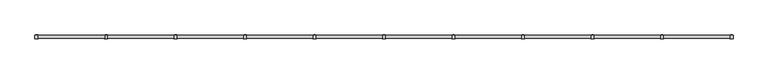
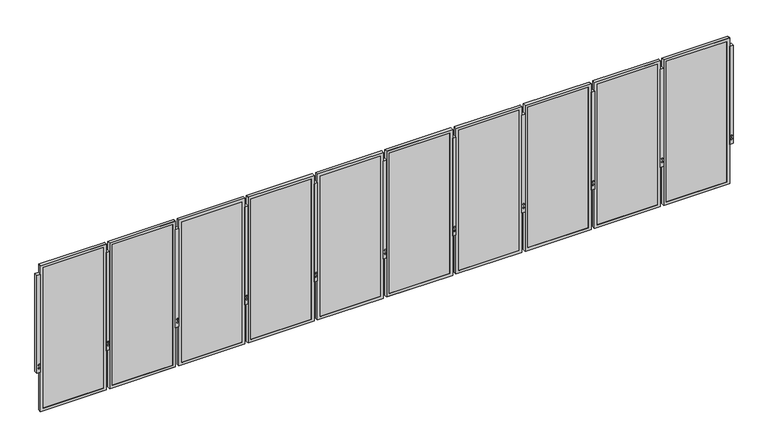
"""IFC4 building model written with IfcOpenShell, lengths in millimetres: railing geometry."""

from ifc_helpers import new_model, si_unit, frame, origin, place, context, project, spatial, polyline, outline, extrude, faceted_brep, source, transform, mapped, element, save


def railing_5ba829ca(model_context):
    return source(origin(), model_context, "Body", "SolidModel", [
        extrude(outline(polyline([(-18888.3135122, -37282.3807329), (-18837.5135122, -37282.3807329), (-18837.5135122, -37333.1807329), (-18888.3135122, -37333.1807329), (-18888.3135122, -37282.3807329)])), frame((0.0, 0.0, -609.6), z_axis=(0.0, 0.0, 1.0), x_axis=(1.0, 0.0, 0.0)), (0.0, 0.0, 1.0), 1524.0),
        extrude(outline(polyline([(-530.1129981, -18873.3340824), (-542.3802561, -18870.0470805), (-545.667258, -18857.7798225), (-536.6870019, -18848.7995664), (-524.4197439, -18852.0865683), (-521.132742, -18864.3538263), (-530.1129981, -18873.3340824)])), frame((0.0, -37335.0274207, 0.0), z_axis=(0.0, 1.0, 0.0), x_axis=(0.0, 0.0, 1.0)), (0.0, 0.0, 1.0), 54.4933756),
        extrude(outline(polyline([(-479.3129981, -18873.3340824), (-491.5802561, -18870.0470805), (-494.867258, -18857.7798225), (-485.8870019, -18848.7995664), (-473.6197439, -18852.0865683), (-470.332742, -18864.3538263), (-479.3129981, -18873.3340824)])), frame((0.0, -37335.0274207, 0.0), z_axis=(0.0, 1.0, 0.0), x_axis=(0.0, 0.0, 1.0)), (0.0, 0.0, 1.0), 54.4933756),
        faceted_brep([(-19854.7179656, -37329.5739329, -1222.375), (-18886.3429656, -37329.5739329, -1222.375), (-18886.3429656, -37329.5739329, 1044.575), (-19854.7179656, -37329.5739329, 1044.575), (-19813.4429656, -37329.5739329, 1003.3), (-18927.6179656, -37329.5739329, 1003.3), (-18927.6179656, -37329.5739329, -1181.1), (-19813.4429656, -37329.5739329, -1181.1), (-19813.4429656, -37326.8307329, 1003.3), (-19813.4429656, -37326.8307329, -1181.1), (-19854.7179656, -37285.7006364, 1044.575), (-19854.7179656, -37285.7006364, -1222.375), (-19851.5429656, -37285.7006364, 1041.4), (-19851.5429656, -37326.8307329, 1041.4), (-19851.5429656, -37326.8307329, -1219.2), (-19851.5429656, -37285.7006364, -1219.2), (-18927.6179656, -37326.8307329, -1181.1), (-18886.3429656, -37285.7006364, -1222.375), (-18889.5179656, -37326.8307329, -1219.2), (-18889.5179656, -37285.7006364, -1219.2), (-18927.6179656, -37326.8307329, 1003.3), (-18886.3429656, -37285.7006364, 1044.575), (-18889.5179656, -37326.8307329, 1041.4), (-18889.5179656, -37285.7006364, 1041.4)], [[[0, 1, 2, 3], [4, 5, 6, 7]], [[8, 4, 7, 9]], [[3, 10, 11, 0]], [[12, 13, 14, 15]], [[9, 7, 6, 16]], [[0, 11, 17, 1]], [[15, 14, 18, 19]], [[16, 6, 5, 20]], [[1, 17, 21, 2]], [[19, 18, 22, 23]], [[20, 5, 4, 8]], [[10, 21, 17, 11], [15, 19, 23, 12]], [[2, 21, 10, 3]], [[13, 22, 18, 14], [9, 16, 20, 8]], [[23, 22, 13, 12]]]),
        extrude(outline(polyline([(-19851.5429656, -37317.3057329), (-18889.5179656, -37317.3057329), (-18889.5179656, -37326.8307329), (-19851.5429656, -37326.8307329), (-19851.5429656, -37317.3057329)])), frame((0.0, 0.0, -1219.2), z_axis=(0.0, 0.0, 1.0), x_axis=(1.0, 0.0, 0.0)), (0.0, 0.0, 1.0), 2260.6),
        extrude(outline(polyline([(-19905.9010122, -37282.3807329), (-19855.1010122, -37282.3807329), (-19855.1010122, -37333.1807329), (-19905.9010122, -37333.1807329), (-19905.9010122, -37282.3807329)])), frame((0.0, 0.0, -609.6), z_axis=(0.0, 0.0, 1.0), x_axis=(1.0, 0.0, 0.0)), (0.0, 0.0, 1.0), 1524.0),
        extrude(outline(polyline([(-530.1129981, -19890.9215824), (-542.3802561, -19887.6345805), (-545.667258, -19875.3673225), (-536.6870019, -19866.3870664), (-524.4197439, -19869.6740683), (-521.132742, -19881.9413263), (-530.1129981, -19890.9215824)])), frame((0.0, -37335.0274207, 0.0), z_axis=(0.0, 1.0, 0.0), x_axis=(0.0, 0.0, 1.0)), (0.0, 0.0, 1.0), 54.4933756),
        extrude(outline(polyline([(-479.3129981, -19890.9215824), (-491.5802561, -19887.6345805), (-494.867258, -19875.3673225), (-485.8870019, -19866.3870664), (-473.6197439, -19869.6740683), (-470.332742, -19881.9413263), (-479.3129981, -19890.9215824)])), frame((0.0, -37335.0274207, 0.0), z_axis=(0.0, 1.0, 0.0), x_axis=(0.0, 0.0, 1.0)), (0.0, 0.0, 1.0), 54.4933756),
        faceted_brep([(-20872.3054656, -37329.5739329, -1222.375), (-19903.9304656, -37329.5739329, -1222.375), (-19903.9304656, -37329.5739329, 1044.575), (-20872.3054656, -37329.5739329, 1044.575), (-20831.0304656, -37329.5739329, 1003.3), (-19945.2054656, -37329.5739329, 1003.3), (-19945.2054656, -37329.5739329, -1181.1), (-20831.0304656, -37329.5739329, -1181.1), (-20831.0304656, -37326.8307329, 1003.3), (-20831.0304656, -37326.8307329, -1181.1), (-20872.3054656, -37285.7006364, 1044.575), (-20872.3054656, -37285.7006364, -1222.375), (-20869.1304656, -37285.7006364, 1041.4), (-20869.1304656, -37326.8307329, 1041.4), (-20869.1304656, -37326.8307329, -1219.2), (-20869.1304656, -37285.7006364, -1219.2), (-19945.2054656, -37326.8307329, -1181.1), (-19903.9304656, -37285.7006364, -1222.375), (-19907.1054656, -37326.8307329, -1219.2), (-19907.1054656, -37285.7006364, -1219.2), (-19945.2054656, -37326.8307329, 1003.3), (-19903.9304656, -37285.7006364, 1044.575), (-19907.1054656, -37326.8307329, 1041.4), (-19907.1054656, -37285.7006364, 1041.4)], [[[0, 1, 2, 3], [4, 5, 6, 7]], [[8, 4, 7, 9]], [[3, 10, 11, 0]], [[12, 13, 14, 15]], [[9, 7, 6, 16]], [[0, 11, 17, 1]], [[15, 14, 18, 19]], [[16, 6, 5, 20]], [[1, 17, 21, 2]], [[19, 18, 22, 23]], [[20, 5, 4, 8]], [[10, 21, 17, 11], [15, 19, 23, 12]], [[2, 21, 10, 3]], [[13, 22, 18, 14], [9, 16, 20, 8]], [[23, 22, 13, 12]]]),
        extrude(outline(polyline([(-20869.1304656, -37317.3057329), (-19907.1054656, -37317.3057329), (-19907.1054656, -37326.8307329), (-20869.1304656, -37326.8307329), (-20869.1304656, -37317.3057329)])), frame((0.0, 0.0, -1219.2), z_axis=(0.0, 0.0, 1.0), x_axis=(1.0, 0.0, 0.0)), (0.0, 0.0, 1.0), 2260.6),
        extrude(outline(polyline([(-20923.4885122, -37282.3807329), (-20872.6885122, -37282.3807329), (-20872.6885122, -37333.1807329), (-20923.4885122, -37333.1807329), (-20923.4885122, -37282.3807329)])), frame((0.0, 0.0, -609.6), z_axis=(0.0, 0.0, 1.0), x_axis=(1.0, 0.0, 0.0)), (0.0, 0.0, 1.0), 1524.0),
        extrude(outline(polyline([(-530.1129981, -20908.5090824), (-542.3802561, -20905.2220805), (-545.667258, -20892.9548225), (-536.6870019, -20883.9745664), (-524.4197439, -20887.2615683), (-521.132742, -20899.5288263), (-530.1129981, -20908.5090824)])), frame((0.0, -37335.0274207, 0.0), z_axis=(0.0, 1.0, 0.0), x_axis=(0.0, 0.0, 1.0)), (0.0, 0.0, 1.0), 54.4933756),
        extrude(outline(polyline([(-479.3129981, -20908.5090824), (-491.5802561, -20905.2220805), (-494.867258, -20892.9548225), (-485.8870019, -20883.9745664), (-473.6197439, -20887.2615683), (-470.332742, -20899.5288263), (-479.3129981, -20908.5090824)])), frame((0.0, -37335.0274207, 0.0), z_axis=(0.0, 1.0, 0.0), x_axis=(0.0, 0.0, 1.0)), (0.0, 0.0, 1.0), 54.4933756),
        faceted_brep([(-21889.8929656, -37329.5739329, -1222.375), (-20921.5179656, -37329.5739329, -1222.375), (-20921.5179656, -37329.5739329, 1044.575), (-21889.8929656, -37329.5739329, 1044.575), (-21848.6179656, -37329.5739329, 1003.3), (-20962.7929656, -37329.5739329, 1003.3), (-20962.7929656, -37329.5739329, -1181.1), (-21848.6179656, -37329.5739329, -1181.1), (-21848.6179656, -37326.8307329, 1003.3), (-21848.6179656, -37326.8307329, -1181.1), (-21889.8929656, -37285.7006364, 1044.575), (-21889.8929656, -37285.7006364, -1222.375), (-21886.7179656, -37285.7006364, 1041.4), (-21886.7179656, -37326.8307329, 1041.4), (-21886.7179656, -37326.8307329, -1219.2), (-21886.7179656, -37285.7006364, -1219.2), (-20962.7929656, -37326.8307329, -1181.1), (-20921.5179656, -37285.7006364, -1222.375), (-20924.6929656, -37326.8307329, -1219.2), (-20924.6929656, -37285.7006364, -1219.2), (-20962.7929656, -37326.8307329, 1003.3), (-20921.5179656, -37285.7006364, 1044.575), (-20924.6929656, -37326.8307329, 1041.4), (-20924.6929656, -37285.7006364, 1041.4)], [[[0, 1, 2, 3], [4, 5, 6, 7]], [[8, 4, 7, 9]], [[3, 10, 11, 0]], [[12, 13, 14, 15]], [[9, 7, 6, 16]], [[0, 11, 17, 1]], [[15, 14, 18, 19]], [[16, 6, 5, 20]], [[1, 17, 21, 2]], [[19, 18, 22, 23]], [[20, 5, 4, 8]], [[10, 21, 17, 11], [15, 19, 23, 12]], [[2, 21, 10, 3]], [[13, 22, 18, 14], [9, 16, 20, 8]], [[23, 22, 13, 12]]]),
        extrude(outline(polyline([(-21886.7179656, -37317.3057329), (-20924.6929656, -37317.3057329), (-20924.6929656, -37326.8307329), (-21886.7179656, -37326.8307329), (-21886.7179656, -37317.3057329)])), frame((0.0, 0.0, -1219.2), z_axis=(0.0, 0.0, 1.0), x_axis=(1.0, 0.0, 0.0)), (0.0, 0.0, 1.0), 2260.6),
        extrude(outline(polyline([(-21941.0760122, -37282.3807329), (-21890.2760122, -37282.3807329), (-21890.2760122, -37333.1807329), (-21941.0760122, -37333.1807329), (-21941.0760122, -37282.3807329)])), frame((0.0, 0.0, -609.6), z_axis=(0.0, 0.0, 1.0), x_axis=(1.0, 0.0, 0.0)), (0.0, 0.0, 1.0), 1524.0),
        extrude(outline(polyline([(-530.1129981, -21926.0965824), (-542.3802561, -21922.8095805), (-545.667258, -21910.5423225), (-536.6870019, -21901.5620664), (-524.4197439, -21904.8490683), (-521.132742, -21917.1163263), (-530.1129981, -21926.0965824)])), frame((0.0, -37335.0274207, 0.0), z_axis=(0.0, 1.0, 0.0), x_axis=(0.0, 0.0, 1.0)), (0.0, 0.0, 1.0), 54.4933756),
        extrude(outline(polyline([(-479.3129981, -21926.0965824), (-491.5802561, -21922.8095805), (-494.867258, -21910.5423225), (-485.8870019, -21901.5620664), (-473.6197439, -21904.8490683), (-470.332742, -21917.1163263), (-479.3129981, -21926.0965824)])), frame((0.0, -37335.0274207, 0.0), z_axis=(0.0, 1.0, 0.0), x_axis=(0.0, 0.0, 1.0)), (0.0, 0.0, 1.0), 54.4933756),
        faceted_brep([(-22907.4804656, -37329.5739329, -1222.375), (-21939.1054656, -37329.5739329, -1222.375), (-21939.1054656, -37329.5739329, 1044.575), (-22907.4804656, -37329.5739329, 1044.575), (-22866.2054656, -37329.5739329, 1003.3), (-21980.3804656, -37329.5739329, 1003.3), (-21980.3804656, -37329.5739329, -1181.1), (-22866.2054656, -37329.5739329, -1181.1), (-22866.2054656, -37326.8307329, 1003.3), (-22866.2054656, -37326.8307329, -1181.1), (-22907.4804656, -37285.7006364, 1044.575), (-22907.4804656, -37285.7006364, -1222.375), (-22904.3054656, -37285.7006364, 1041.4), (-22904.3054656, -37326.8307329, 1041.4), (-22904.3054656, -37326.8307329, -1219.2), (-22904.3054656, -37285.7006364, -1219.2), (-21980.3804656, -37326.8307329, -1181.1), (-21939.1054656, -37285.7006364, -1222.375), (-21942.2804656, -37326.8307329, -1219.2), (-21942.2804656, -37285.7006364, -1219.2), (-21980.3804656, -37326.8307329, 1003.3), (-21939.1054656, -37285.7006364, 1044.575), (-21942.2804656, -37326.8307329, 1041.4), (-21942.2804656, -37285.7006364, 1041.4)], [[[0, 1, 2, 3], [4, 5, 6, 7]], [[8, 4, 7, 9]], [[3, 10, 11, 0]], [[12, 13, 14, 15]], [[9, 7, 6, 16]], [[0, 11, 17, 1]], [[15, 14, 18, 19]], [[16, 6, 5, 20]], [[1, 17, 21, 2]], [[19, 18, 22, 23]], [[20, 5, 4, 8]], [[10, 21, 17, 11], [15, 19, 23, 12]], [[2, 21, 10, 3]], [[13, 22, 18, 14], [9, 16, 20, 8]], [[23, 22, 13, 12]]]),
        extrude(outline(polyline([(-22904.3054656, -37317.3057329), (-21942.2804656, -37317.3057329), (-21942.2804656, -37326.8307329), (-22904.3054656, -37326.8307329), (-22904.3054656, -37317.3057329)])), frame((0.0, 0.0, -1219.2), z_axis=(0.0, 0.0, 1.0), x_axis=(1.0, 0.0, 0.0)), (0.0, 0.0, 1.0), 2260.6),
        extrude(outline(polyline([(-22958.6635122, -37282.3807329), (-22907.8635122, -37282.3807329), (-22907.8635122, -37333.1807329), (-22958.6635122, -37333.1807329), (-22958.6635122, -37282.3807329)])), frame((0.0, 0.0, -609.6), z_axis=(0.0, 0.0, 1.0), x_axis=(1.0, 0.0, 0.0)), (0.0, 0.0, 1.0), 1524.0),
        extrude(outline(polyline([(-530.1129981, -22943.6840824), (-542.3802561, -22940.3970805), (-545.667258, -22928.1298225), (-536.6870019, -22919.1495664), (-524.4197439, -22922.4365683), (-521.132742, -22934.7038263), (-530.1129981, -22943.6840824)])), frame((0.0, -37335.0274207, 0.0), z_axis=(0.0, 1.0, 0.0), x_axis=(0.0, 0.0, 1.0)), (0.0, 0.0, 1.0), 54.4933756),
        extrude(outline(polyline([(-479.3129981, -22943.6840824), (-491.5802561, -22940.3970805), (-494.867258, -22928.1298225), (-485.8870019, -22919.1495664), (-473.6197439, -22922.4365683), (-470.332742, -22934.7038263), (-479.3129981, -22943.6840824)])), frame((0.0, -37335.0274207, 0.0), z_axis=(0.0, 1.0, 0.0), x_axis=(0.0, 0.0, 1.0)), (0.0, 0.0, 1.0), 54.4933756),
        faceted_brep([(-23925.0679656, -37329.5739329, -1222.375), (-22956.6929656, -37329.5739329, -1222.375), (-22956.6929656, -37329.5739329, 1044.575), (-23925.0679656, -37329.5739329, 1044.575), (-23883.7929656, -37329.5739329, 1003.3), (-22997.9679656, -37329.5739329, 1003.3), (-22997.9679656, -37329.5739329, -1181.1), (-23883.7929656, -37329.5739329, -1181.1), (-23883.7929656, -37326.8307329, 1003.3), (-23883.7929656, -37326.8307329, -1181.1), (-23925.0679656, -37285.7006364, 1044.575), (-23925.0679656, -37285.7006364, -1222.375), (-23921.8929656, -37285.7006364, 1041.4), (-23921.8929656, -37326.8307329, 1041.4), (-23921.8929656, -37326.8307329, -1219.2), (-23921.8929656, -37285.7006364, -1219.2), (-22997.9679656, -37326.8307329, -1181.1), (-22956.6929656, -37285.7006364, -1222.375), (-22959.8679656, -37326.8307329, -1219.2), (-22959.8679656, -37285.7006364, -1219.2), (-22997.9679656, -37326.8307329, 1003.3), (-22956.6929656, -37285.7006364, 1044.575), (-22959.8679656, -37326.8307329, 1041.4), (-22959.8679656, -37285.7006364, 1041.4)], [[[0, 1, 2, 3], [4, 5, 6, 7]], [[8, 4, 7, 9]], [[3, 10, 11, 0]], [[12, 13, 14, 15]], [[9, 7, 6, 16]], [[0, 11, 17, 1]], [[15, 14, 18, 19]], [[16, 6, 5, 20]], [[1, 17, 21, 2]], [[19, 18, 22, 23]], [[20, 5, 4, 8]], [[10, 21, 17, 11], [15, 19, 23, 12]], [[2, 21, 10, 3]], [[13, 22, 18, 14], [9, 16, 20, 8]], [[23, 22, 13, 12]]]),
        extrude(outline(polyline([(-23921.8929656, -37317.3057329), (-22959.8679656, -37317.3057329), (-22959.8679656, -37326.8307329), (-23921.8929656, -37326.8307329), (-23921.8929656, -37317.3057329)])), frame((0.0, 0.0, -1219.2), z_axis=(0.0, 0.0, 1.0), x_axis=(1.0, 0.0, 0.0)), (0.0, 0.0, 1.0), 2260.6),
        extrude(outline(polyline([(-23976.2510122, -37282.3807329), (-23925.4510122, -37282.3807329), (-23925.4510122, -37333.1807329), (-23976.2510122, -37333.1807329), (-23976.2510122, -37282.3807329)])), frame((0.0, 0.0, -609.6), z_axis=(0.0, 0.0, 1.0), x_axis=(1.0, 0.0, 0.0)), (0.0, 0.0, 1.0), 1524.0),
        extrude(outline(polyline([(-530.1129981, -23961.2715824), (-542.3802561, -23957.9845805), (-545.667258, -23945.7173225), (-536.6870019, -23936.7370664), (-524.4197439, -23940.0240683), (-521.132742, -23952.2913263), (-530.1129981, -23961.2715824)])), frame((0.0, -37335.0274207, 0.0), z_axis=(0.0, 1.0, 0.0), x_axis=(0.0, 0.0, 1.0)), (0.0, 0.0, 1.0), 54.4933756),
        extrude(outline(polyline([(-479.3129981, -23961.2715824), (-491.5802561, -23957.9845805), (-494.867258, -23945.7173225), (-485.8870019, -23936.7370664), (-473.6197439, -23940.0240683), (-470.332742, -23952.2913263), (-479.3129981, -23961.2715824)])), frame((0.0, -37335.0274207, 0.0), z_axis=(0.0, 1.0, 0.0), x_axis=(0.0, 0.0, 1.0)), (0.0, 0.0, 1.0), 54.4933756),
        faceted_brep([(-24942.6554656, -37329.5739329, -1222.375), (-23974.2804656, -37329.5739329, -1222.375), (-23974.2804656, -37329.5739329, 1044.575), (-24942.6554656, -37329.5739329, 1044.575), (-24901.3804656, -37329.5739329, 1003.3), (-24015.5554656, -37329.5739329, 1003.3), (-24015.5554656, -37329.5739329, -1181.1), (-24901.3804656, -37329.5739329, -1181.1), (-24901.3804656, -37326.8307329, 1003.3), (-24901.3804656, -37326.8307329, -1181.1), (-24942.6554656, -37285.7006364, 1044.575), (-24942.6554656, -37285.7006364, -1222.375), (-24939.4804656, -37285.7006364, 1041.4), (-24939.4804656, -37326.8307329, 1041.4), (-24939.4804656, -37326.8307329, -1219.2), (-24939.4804656, -37285.7006364, -1219.2), (-24015.5554656, -37326.8307329, -1181.1), (-23974.2804656, -37285.7006364, -1222.375), (-23977.4554656, -37326.8307329, -1219.2), (-23977.4554656, -37285.7006364, -1219.2), (-24015.5554656, -37326.8307329, 1003.3), (-23974.2804656, -37285.7006364, 1044.575), (-23977.4554656, -37326.8307329, 1041.4), (-23977.4554656, -37285.7006364, 1041.4)], [[[0, 1, 2, 3], [4, 5, 6, 7]], [[8, 4, 7, 9]], [[3, 10, 11, 0]], [[12, 13, 14, 15]], [[9, 7, 6, 16]], [[0, 11, 17, 1]], [[15, 14, 18, 19]], [[16, 6, 5, 20]], [[1, 17, 21, 2]], [[19, 18, 22, 23]], [[20, 5, 4, 8]], [[10, 21, 17, 11], [15, 19, 23, 12]], [[2, 21, 10, 3]], [[13, 22, 18, 14], [9, 16, 20, 8]], [[23, 22, 13, 12]]]),
        extrude(outline(polyline([(-24939.4804656, -37317.3057329), (-23977.4554656, -37317.3057329), (-23977.4554656, -37326.8307329), (-24939.4804656, -37326.8307329), (-24939.4804656, -37317.3057329)])), frame((0.0, 0.0, -1219.2), z_axis=(0.0, 0.0, 1.0), x_axis=(1.0, 0.0, 0.0)), (0.0, 0.0, 1.0), 2260.6),
        extrude(outline(polyline([(-24993.8385122, -37282.3807329), (-24943.0385122, -37282.3807329), (-24943.0385122, -37333.1807329), (-24993.8385122, -37333.1807329), (-24993.8385122, -37282.3807329)])), frame((0.0, 0.0, -609.6), z_axis=(0.0, 0.0, 1.0), x_axis=(1.0, 0.0, 0.0)), (0.0, 0.0, 1.0), 1524.0),
        extrude(outline(polyline([(-530.1129981, -24978.8590824), (-542.3802561, -24975.5720805), (-545.667258, -24963.3048225), (-536.6870019, -24954.3245664), (-524.4197439, -24957.6115683), (-521.132742, -24969.8788263), (-530.1129981, -24978.8590824)])), frame((0.0, -37335.0274207, 0.0), z_axis=(0.0, 1.0, 0.0), x_axis=(0.0, 0.0, 1.0)), (0.0, 0.0, 1.0), 54.4933756),
        extrude(outline(polyline([(-479.3129981, -24978.8590824), (-491.5802561, -24975.5720805), (-494.867258, -24963.3048225), (-485.8870019, -24954.3245664), (-473.6197439, -24957.6115683), (-470.332742, -24969.8788263), (-479.3129981, -24978.8590824)])), frame((0.0, -37335.0274207, 0.0), z_axis=(0.0, 1.0, 0.0), x_axis=(0.0, 0.0, 1.0)), (0.0, 0.0, 1.0), 54.4933756),
        faceted_brep([(-25960.2429656, -37329.5739329, -1222.375), (-24991.8679656, -37329.5739329, -1222.375), (-24991.8679656, -37329.5739329, 1044.575), (-25960.2429656, -37329.5739329, 1044.575), (-25918.9679656, -37329.5739329, 1003.3), (-25033.1429656, -37329.5739329, 1003.3), (-25033.1429656, -37329.5739329, -1181.1), (-25918.9679656, -37329.5739329, -1181.1), (-25918.9679656, -37326.8307329, 1003.3), (-25918.9679656, -37326.8307329, -1181.1), (-25960.2429656, -37285.7006364, 1044.575), (-25960.2429656, -37285.7006364, -1222.375), (-25957.0679656, -37285.7006364, 1041.4), (-25957.0679656, -37326.8307329, 1041.4), (-25957.0679656, -37326.8307329, -1219.2), (-25957.0679656, -37285.7006364, -1219.2), (-25033.1429656, -37326.8307329, -1181.1), (-24991.8679656, -37285.7006364, -1222.375), (-24995.0429656, -37326.8307329, -1219.2), (-24995.0429656, -37285.7006364, -1219.2), (-25033.1429656, -37326.8307329, 1003.3), (-24991.8679656, -37285.7006364, 1044.575), (-24995.0429656, -37326.8307329, 1041.4), (-24995.0429656, -37285.7006364, 1041.4)], [[[0, 1, 2, 3], [4, 5, 6, 7]], [[8, 4, 7, 9]], [[3, 10, 11, 0]], [[12, 13, 14, 15]], [[9, 7, 6, 16]], [[0, 11, 17, 1]], [[15, 14, 18, 19]], [[16, 6, 5, 20]], [[1, 17, 21, 2]], [[19, 18, 22, 23]], [[20, 5, 4, 8]], [[10, 21, 17, 11], [15, 19, 23, 12]], [[2, 21, 10, 3]], [[13, 22, 18, 14], [9, 16, 20, 8]], [[23, 22, 13, 12]]]),
        extrude(outline(polyline([(-25957.0679656, -37317.3057329), (-24995.0429656, -37317.3057329), (-24995.0429656, -37326.8307329), (-25957.0679656, -37326.8307329), (-25957.0679656, -37317.3057329)])), frame((0.0, 0.0, -1219.2), z_axis=(0.0, 0.0, 1.0), x_axis=(1.0, 0.0, 0.0)), (0.0, 0.0, 1.0), 2260.6),
        extrude(outline(polyline([(-26011.4260122, -37282.3807329), (-25960.6260122, -37282.3807329), (-25960.6260122, -37333.1807329), (-26011.4260122, -37333.1807329), (-26011.4260122, -37282.3807329)])), frame((0.0, 0.0, -609.6), z_axis=(0.0, 0.0, 1.0), x_axis=(1.0, 0.0, 0.0)), (0.0, 0.0, 1.0), 1524.0),
        extrude(outline(polyline([(-530.1129981, -25996.4465824), (-542.3802561, -25993.1595805), (-545.667258, -25980.8923225), (-536.6870019, -25971.9120664), (-524.4197439, -25975.1990683), (-521.132742, -25987.4663263), (-530.1129981, -25996.4465824)])), frame((0.0, -37335.0274207, 0.0), z_axis=(0.0, 1.0, 0.0), x_axis=(0.0, 0.0, 1.0)), (0.0, 0.0, 1.0), 54.4933756),
        extrude(outline(polyline([(-479.3129981, -25996.4465824), (-491.5802561, -25993.1595805), (-494.867258, -25980.8923225), (-485.8870019, -25971.9120664), (-473.6197439, -25975.1990683), (-470.332742, -25987.4663263), (-479.3129981, -25996.4465824)])), frame((0.0, -37335.0274207, 0.0), z_axis=(0.0, 1.0, 0.0), x_axis=(0.0, 0.0, 1.0)), (0.0, 0.0, 1.0), 54.4933756),
        faceted_brep([(-26977.8304656, -37329.5739329, -1222.375), (-26009.4554656, -37329.5739329, -1222.375), (-26009.4554656, -37329.5739329, 1044.575), (-26977.8304656, -37329.5739329, 1044.575), (-26936.5554656, -37329.5739329, 1003.3), (-26050.7304656, -37329.5739329, 1003.3), (-26050.7304656, -37329.5739329, -1181.1), (-26936.5554656, -37329.5739329, -1181.1), (-26936.5554656, -37326.8307329, 1003.3), (-26936.5554656, -37326.8307329, -1181.1), (-26977.8304656, -37285.7006364, 1044.575), (-26977.8304656, -37285.7006364, -1222.375), (-26974.6554656, -37285.7006364, 1041.4), (-26974.6554656, -37326.8307329, 1041.4), (-26974.6554656, -37326.8307329, -1219.2), (-26974.6554656, -37285.7006364, -1219.2), (-26050.7304656, -37326.8307329, -1181.1), (-26009.4554656, -37285.7006364, -1222.375), (-26012.6304656, -37326.8307329, -1219.2), (-26012.6304656, -37285.7006364, -1219.2), (-26050.7304656, -37326.8307329, 1003.3), (-26009.4554656, -37285.7006364, 1044.575), (-26012.6304656, -37326.8307329, 1041.4), (-26012.6304656, -37285.7006364, 1041.4)], [[[0, 1, 2, 3], [4, 5, 6, 7]], [[8, 4, 7, 9]], [[3, 10, 11, 0]], [[12, 13, 14, 15]], [[9, 7, 6, 16]], [[0, 11, 17, 1]], [[15, 14, 18, 19]], [[16, 6, 5, 20]], [[1, 17, 21, 2]], [[19, 18, 22, 23]], [[20, 5, 4, 8]], [[10, 21, 17, 11], [15, 19, 23, 12]], [[2, 21, 10, 3]], [[13, 22, 18, 14], [9, 16, 20, 8]], [[23, 22, 13, 12]]]),
        extrude(outline(polyline([(-26974.6554656, -37317.3057329), (-26012.6304656, -37317.3057329), (-26012.6304656, -37326.8307329), (-26974.6554656, -37326.8307329), (-26974.6554656, -37317.3057329)])), frame((0.0, 0.0, -1219.2), z_axis=(0.0, 0.0, 1.0), x_axis=(1.0, 0.0, 0.0)), (0.0, 0.0, 1.0), 2260.6),
        extrude(outline(polyline([(-27029.0135122, -37282.3807329), (-26978.2135122, -37282.3807329), (-26978.2135122, -37333.1807329), (-27029.0135122, -37333.1807329), (-27029.0135122, -37282.3807329)])), frame((0.0, 0.0, -609.6), z_axis=(0.0, 0.0, 1.0), x_axis=(1.0, 0.0, 0.0)), (0.0, 0.0, 1.0), 1524.0),
        extrude(outline(polyline([(-530.1129981, -27014.0340824), (-542.3802561, -27010.7470805), (-545.667258, -26998.4798225), (-536.6870019, -26989.4995664), (-524.4197439, -26992.7865683), (-521.132742, -27005.0538263), (-530.1129981, -27014.0340824)])), frame((0.0, -37335.0274207, 0.0), z_axis=(0.0, 1.0, 0.0), x_axis=(0.0, 0.0, 1.0)), (0.0, 0.0, 1.0), 54.4933756),
        extrude(outline(polyline([(-479.3129981, -27014.0340824), (-491.5802561, -27010.7470805), (-494.867258, -26998.4798225), (-485.8870019, -26989.4995664), (-473.6197439, -26992.7865683), (-470.332742, -27005.0538263), (-479.3129981, -27014.0340824)])), frame((0.0, -37335.0274207, 0.0), z_axis=(0.0, 1.0, 0.0), x_axis=(0.0, 0.0, 1.0)), (0.0, 0.0, 1.0), 54.4933756),
        faceted_brep([(-27995.4179656, -37329.5739329, -1222.375), (-27027.0429656, -37329.5739329, -1222.375), (-27027.0429656, -37329.5739329, 1044.575), (-27995.4179656, -37329.5739329, 1044.575), (-27954.1429656, -37329.5739329, 1003.3), (-27068.3179656, -37329.5739329, 1003.3), (-27068.3179656, -37329.5739329, -1181.1), (-27954.1429656, -37329.5739329, -1181.1), (-27954.1429656, -37326.8307329, 1003.3), (-27954.1429656, -37326.8307329, -1181.1), (-27995.4179656, -37285.7006364, 1044.575), (-27995.4179656, -37285.7006364, -1222.375), (-27992.2429656, -37285.7006364, 1041.4), (-27992.2429656, -37326.8307329, 1041.4), (-27992.2429656, -37326.8307329, -1219.2), (-27992.2429656, -37285.7006364, -1219.2), (-27068.3179656, -37326.8307329, -1181.1), (-27027.0429656, -37285.7006364, -1222.375), (-27030.2179656, -37326.8307329, -1219.2), (-27030.2179656, -37285.7006364, -1219.2), (-27068.3179656, -37326.8307329, 1003.3), (-27027.0429656, -37285.7006364, 1044.575), (-27030.2179656, -37326.8307329, 1041.4), (-27030.2179656, -37285.7006364, 1041.4)], [[[0, 1, 2, 3], [4, 5, 6, 7]], [[8, 4, 7, 9]], [[3, 10, 11, 0]], [[12, 13, 14, 15]], [[9, 7, 6, 16]], [[0, 11, 17, 1]], [[15, 14, 18, 19]], [[16, 6, 5, 20]], [[1, 17, 21, 2]], [[19, 18, 22, 23]], [[20, 5, 4, 8]], [[10, 21, 17, 11], [15, 19, 23, 12]], [[2, 21, 10, 3]], [[13, 22, 18, 14], [9, 16, 20, 8]], [[23, 22, 13, 12]]]),
        extrude(outline(polyline([(-27992.2429656, -37317.3057329), (-27030.2179656, -37317.3057329), (-27030.2179656, -37326.8307329), (-27992.2429656, -37326.8307329), (-27992.2429656, -37317.3057329)])), frame((0.0, 0.0, -1219.2), z_axis=(0.0, 0.0, 1.0), x_axis=(1.0, 0.0, 0.0)), (0.0, 0.0, 1.0), 2260.6),
        extrude(outline(polyline([(-28046.6010122, -37282.3807329), (-27995.8010122, -37282.3807329), (-27995.8010122, -37333.1807329), (-28046.6010122, -37333.1807329), (-28046.6010122, -37282.3807329)])), frame((0.0, 0.0, -609.6), z_axis=(0.0, 0.0, 1.0), x_axis=(1.0, 0.0, 0.0)), (0.0, 0.0, 1.0), 1524.0),
        extrude(outline(polyline([(-530.1129981, -28031.6215824), (-542.3802561, -28028.3345805), (-545.667258, -28016.0673225), (-536.6870019, -28007.0870664), (-524.4197439, -28010.3740683), (-521.132742, -28022.6413263), (-530.1129981, -28031.6215824)])), frame((0.0, -37335.0274207, 0.0), z_axis=(0.0, 1.0, 0.0), x_axis=(0.0, 0.0, 1.0)), (0.0, 0.0, 1.0), 54.4933756),
        extrude(outline(polyline([(-479.3129981, -28031.6215824), (-491.5802561, -28028.3345805), (-494.867258, -28016.0673225), (-485.8870019, -28007.0870664), (-473.6197439, -28010.3740683), (-470.332742, -28022.6413263), (-479.3129981, -28031.6215824)])), frame((0.0, -37335.0274207, 0.0), z_axis=(0.0, 1.0, 0.0), x_axis=(0.0, 0.0, 1.0)), (0.0, 0.0, 1.0), 54.4933756),
        faceted_brep([(-29013.0054656, -37329.5739329, -1222.375), (-28044.6304656, -37329.5739329, -1222.375), (-28044.6304656, -37329.5739329, 1044.575), (-29013.0054656, -37329.5739329, 1044.575), (-28971.7304656, -37329.5739329, 1003.3), (-28085.9054656, -37329.5739329, 1003.3), (-28085.9054656, -37329.5739329, -1181.1), (-28971.7304656, -37329.5739329, -1181.1), (-28971.7304656, -37326.8307329, 1003.3), (-28971.7304656, -37326.8307329, -1181.1), (-29013.0054656, -37285.7006364, 1044.575), (-29013.0054656, -37285.7006364, -1222.375), (-29009.8304656, -37285.7006364, 1041.4), (-29009.8304656, -37326.8307329, 1041.4), (-29009.8304656, -37326.8307329, -1219.2), (-29009.8304656, -37285.7006364, -1219.2), (-28085.9054656, -37326.8307329, -1181.1), (-28044.6304656, -37285.7006364, -1222.375), (-28047.8054656, -37326.8307329, -1219.2), (-28047.8054656, -37285.7006364, -1219.2), (-28085.9054656, -37326.8307329, 1003.3), (-28044.6304656, -37285.7006364, 1044.575), (-28047.8054656, -37326.8307329, 1041.4), (-28047.8054656, -37285.7006364, 1041.4)], [[[0, 1, 2, 3], [4, 5, 6, 7]], [[8, 4, 7, 9]], [[3, 10, 11, 0]], [[12, 13, 14, 15]], [[9, 7, 6, 16]], [[0, 11, 17, 1]], [[15, 14, 18, 19]], [[16, 6, 5, 20]], [[1, 17, 21, 2]], [[19, 18, 22, 23]], [[20, 5, 4, 8]], [[10, 21, 17, 11], [15, 19, 23, 12]], [[2, 21, 10, 3]], [[13, 22, 18, 14], [9, 16, 20, 8]], [[23, 22, 13, 12]]]),
        extrude(outline(polyline([(-29009.8304656, -37317.3057329), (-28047.8054656, -37317.3057329), (-28047.8054656, -37326.8307329), (-29009.8304656, -37326.8307329), (-29009.8304656, -37317.3057329)])), frame((0.0, 0.0, -1219.2), z_axis=(0.0, 0.0, 1.0), x_axis=(1.0, 0.0, 0.0)), (0.0, 0.0, 1.0), 2260.6),
        extrude(outline(polyline([(-29064.1885122, -37282.3807329), (-29013.3885122, -37282.3807329), (-29013.3885122, -37333.1807329), (-29064.1885122, -37333.1807329), (-29064.1885122, -37282.3807329)])), frame((0.0, 0.0, -609.6), z_axis=(0.0, 0.0, 1.0), x_axis=(1.0, 0.0, 0.0)), (0.0, 0.0, 1.0), 1524.0),
        extrude(outline(polyline([(-530.1129981, -29049.2090824), (-542.3802561, -29045.9220805), (-545.667258, -29033.6548225), (-536.6870019, -29024.6745664), (-524.4197439, -29027.9615683), (-521.132742, -29040.2288263), (-530.1129981, -29049.2090824)])), frame((0.0, -37335.0274207, 0.0), z_axis=(0.0, 1.0, 0.0), x_axis=(0.0, 0.0, 1.0)), (0.0, 0.0, 1.0), 54.4933756),
        extrude(outline(polyline([(-479.3129981, -29049.2090824), (-491.5802561, -29045.9220805), (-494.867258, -29033.6548225), (-485.8870019, -29024.6745664), (-473.6197439, -29027.9615683), (-470.332742, -29040.2288263), (-479.3129981, -29049.2090824)])), frame((0.0, -37335.0274207, 0.0), z_axis=(0.0, 1.0, 0.0), x_axis=(0.0, 0.0, 1.0)), (0.0, 0.0, 1.0), 54.4933756),
    ])


if __name__ == "__main__":
    model = new_model("IFC4")
    model_context = context("Model", 3, world=origin())
    ifc_project = project(units=[si_unit("LENGTHUNIT", "METRE", prefix="MILLI")], contexts=[model_context])
    site = spatial("IfcSite", under=ifc_project)
    building = spatial("IfcBuilding", under=site)
    placement = place(None, origin())
    railing_shape = railing_5ba829ca(model_context)
    element("IfcRailing", 1, ObjectType="Railing - Amico Architectural - Expanded Mesh Railing - 3/16\" Circle - 5/16\" Staggered", at=placement, inside=building, context=model_context, shape_type="MappedRepresentation", body=[
        mapped(railing_shape, transform((0.0, 0.0, 0.0), x_axis=(1.0, 0.0, 0.0), y_axis=(0.0, 1.0, 0.0), z_axis=(0.0, 0.0, 1.0))),
    ])
    save(model, "model.ifc")
